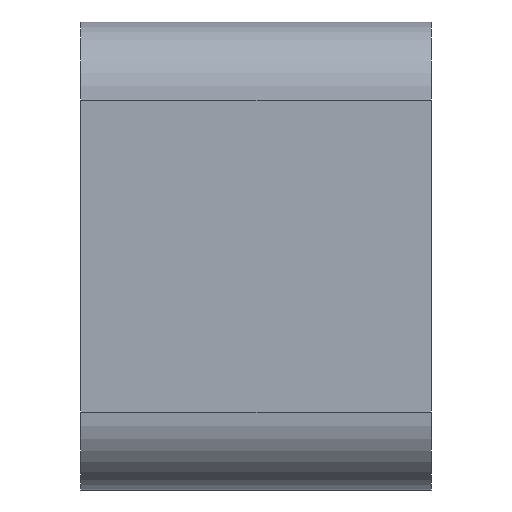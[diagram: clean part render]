
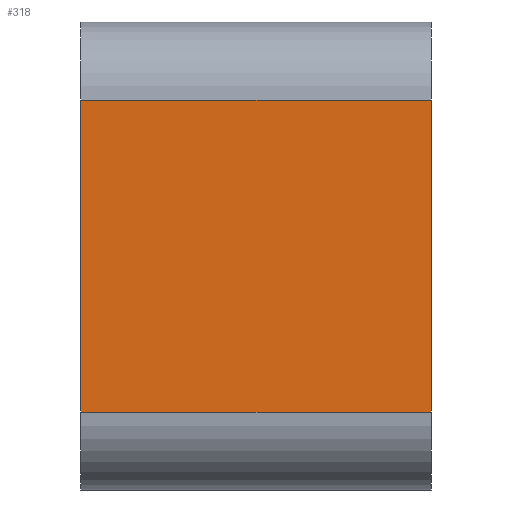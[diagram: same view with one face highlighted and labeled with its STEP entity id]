
A CAD part, left-side view. The second image highlights one B-rep face of the part: STEP entity #318.
In plain terms, the highlighted planar face has unit normal (-1, 0, 0).
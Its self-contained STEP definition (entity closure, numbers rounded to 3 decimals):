
#22=LINE('',#539,#44);
#23=LINE('',#542,#45);
#24=LINE('',#544,#46);
#25=LINE('',#545,#47);
#44=VECTOR('',#446,10.);
#45=VECTOR('',#449,10.);
#46=VECTOR('',#450,10.);
#47=VECTOR('',#451,10.);
#88=FACE_OUTER_BOUND('',#110,.T.);
#110=EDGE_LOOP('',(#249,#250,#251,#252));
#157=VERTEX_POINT('',#532);
#160=VERTEX_POINT('',#537);
#161=VERTEX_POINT('',#541);
#162=VERTEX_POINT('',#543);
#194=EDGE_CURVE('',#157,#160,#22,.T.);
#195=EDGE_CURVE('',#161,#157,#23,.T.);
#196=EDGE_CURVE('',#162,#160,#24,.T.);
#197=EDGE_CURVE('',#161,#162,#25,.T.);
#249=ORIENTED_EDGE('',*,*,#195,.T.);
#250=ORIENTED_EDGE('',*,*,#194,.T.);
#251=ORIENTED_EDGE('',*,*,#196,.F.);
#252=ORIENTED_EDGE('',*,*,#197,.F.);
#302=PLANE('',#374);
#318=ADVANCED_FACE('',(#88),#302,.T.);
#374=AXIS2_PLACEMENT_3D('',#540,#447,#448);
#446=DIRECTION('',(0.,1.,0.));
#447=DIRECTION('center_axis',(-1.,0.,0.));
#448=DIRECTION('ref_axis',(0.,0.,1.));
#449=DIRECTION('',(0.,0.,1.));
#450=DIRECTION('',(0.,0.,1.));
#451=DIRECTION('',(0.,1.,0.));
#532=CARTESIAN_POINT('',(-17.5,0.,4.));
#537=CARTESIAN_POINT('',(-17.5,9.,4.));
#539=CARTESIAN_POINT('',(-17.5,0.,4.));
#540=CARTESIAN_POINT('Origin',(-17.5,0.,-4.));
#541=CARTESIAN_POINT('',(-17.5,0.,-4.));
#542=CARTESIAN_POINT('',(-17.5,0.,-4.));
#543=CARTESIAN_POINT('',(-17.5,9.,-4.));
#544=CARTESIAN_POINT('',(-17.5,9.,-4.));
#545=CARTESIAN_POINT('',(-17.5,0.,-4.));
